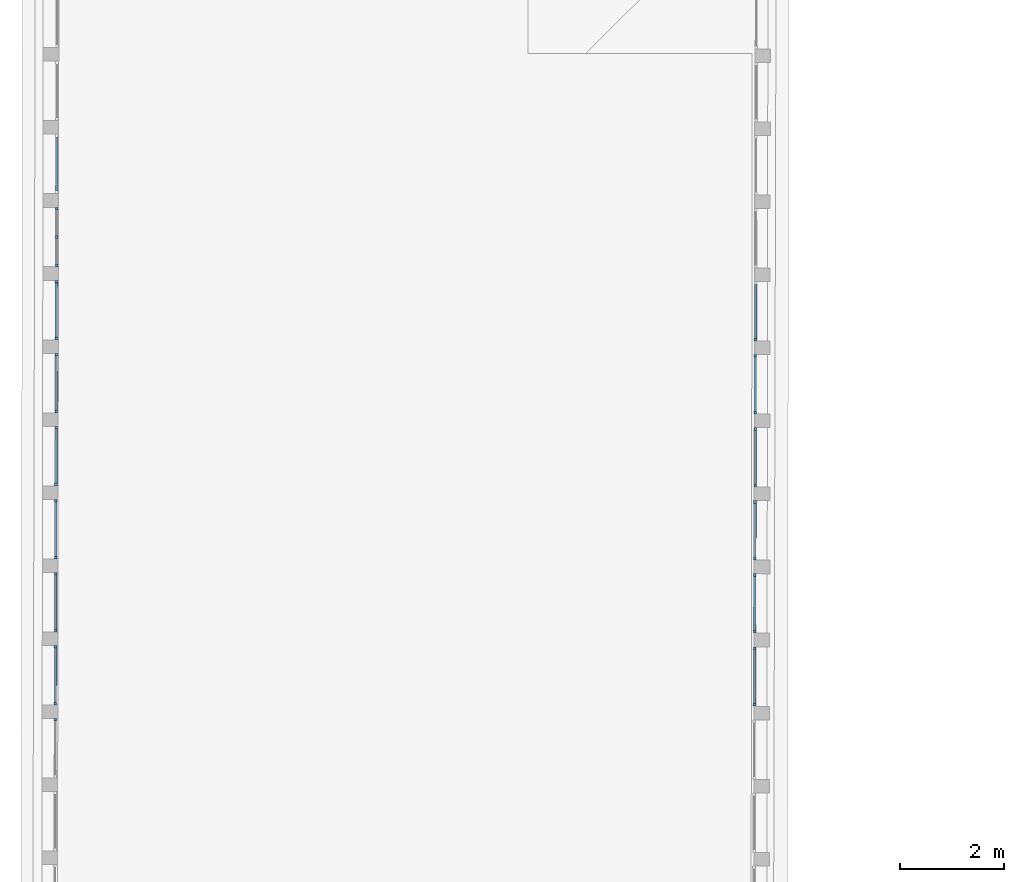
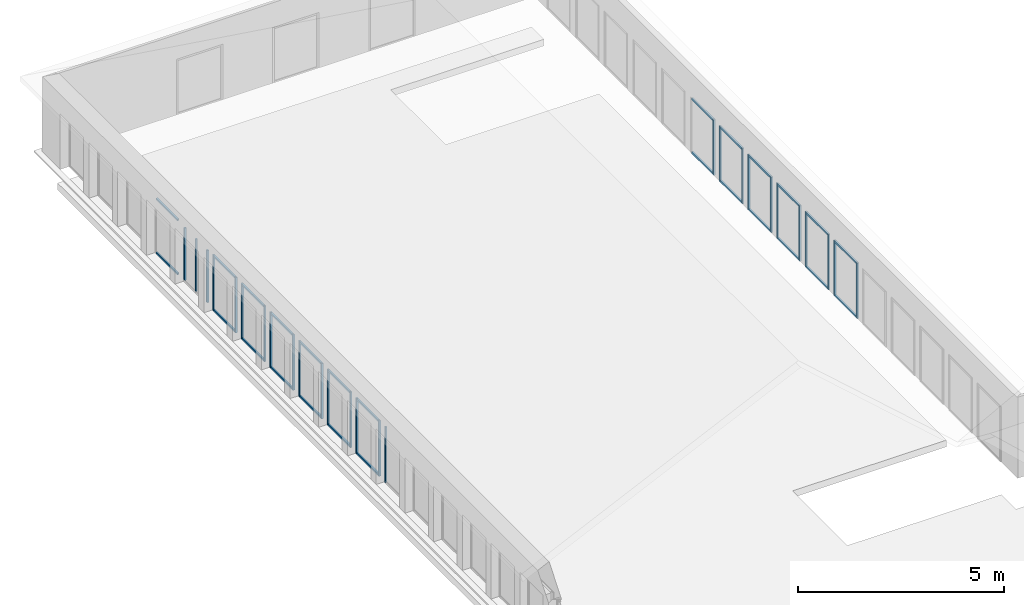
# One storey, part 7 of 26: 53 members, 15 elements without a shape of their own.
"""IFC2X3 building model written with IfcOpenShell, lengths in metres."""

from ifc_helpers import new_model, entity, si_unit, converted_unit, derived_unit, direction, frame, origin, origin_2d_with_axis, place, context, subcontext, project, spatial, rectangle, extrude, source, transform, mapped, material, type_object, type_shapes, element, aggregate, save


model = new_model("IFC2X3")

# Units and contexts
model_context = context("Model", 3, precision=1e-05, world=origin(), true_north=direction((6.123233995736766e-17, 1.0)))
body_context = subcontext(model_context, "Body", "Model", "MODEL_VIEW")
ifc_project = project(units=[si_unit("LENGTHUNIT", "METRE"), si_unit("AREAUNIT", "SQUARE_METRE"), converted_unit("PLANEANGLEUNIT", "DEGREE", entity("IfcPlaneAngleMeasure", 0.017453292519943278), si_unit("PLANEANGLEUNIT", "RADIAN"), dimensions=[0, 0, 0, 0, 0, 0, 0]), derived_unit("THERMALTRANSMITTANCEUNIT", [(si_unit("MASSUNIT", "GRAM", prefix="KILO"), 1), (si_unit("THERMODYNAMICTEMPERATUREUNIT", "KELVIN"), -1), (si_unit("TIMEUNIT", "SECOND"), -3)])], contexts=[model_context])

# Site, building, storey
site_placement = place(None, frame((1253.6752467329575, 2072.143113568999, 91.49999999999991), z_axis=(0.0, 0.0, 1.0), x_axis=(0.7237211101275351, 0.6900925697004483, 0.0)))
site = spatial("IfcSite", under=ifc_project, at=site_placement, Name="Surface", CompositionType="ELEMENT")
building_placement = place(site_placement, origin())
building = spatial("IfcBuilding", under=site, at=building_placement, CompositionType="ELEMENT")
storey_placement = place(building_placement, frame((0.0, 0.0, 7.0)))
storey = spatial("IfcBuildingStorey", under=building, at=storey_placement, Name="2-R+2", CompositionType="ELEMENT", Elevation=6.999999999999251)

# Curtain wall, member
curtain_wall_type = type_object("IfcCurtainWallType", Name="Mur-rideau:Menuiserie Ext 1F+1OB VERTIC", PredefinedType="NOTDEFINED")
curtain_wall_1_placement = place(storey_placement, frame((0.0, 0.0, -7.0)))
curtain_wall_1 = element("IfcCurtainWall", 1, at=curtain_wall_1_placement, inside=storey, type_object=curtain_wall_type, Name="Mur-rideau:Menuiserie Ext 1F+1OB VERTIC", ObjectType="Mur-rideau:Menuiserie Ext 1F+1OB VERTIC")
ifc_material_1 = material(Name="OMD_Aluminium Men Ext")
member_type_1 = type_object("IfcMemberType", Name="Meneau rectangulaire:50x50", PredefinedType="MULLION", material=ifc_material_1)
shared_shape_1 = source(origin(), body_context, "Body", "SweptSolid", [
    extrude(rectangle(XDim=0.05, YDim=0.049999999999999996, at=origin_2d_with_axis()), frame((-0.025, 0.0, -1.039999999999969), z_axis=(0.0, 0.0, 1.0), x_axis=(-1.0, 0.0, 0.0)), (0.0, 0.0, 1.0), 1.0399999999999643),
])
type_shapes(member_type_1, [shared_shape_1])
member_1_placement = place(curtain_wall_1_placement, frame((162.87160490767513, 23.81590034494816, 9.55), z_axis=(0.6911544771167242, 0.7227070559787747, 0.0), x_axis=(0.0, 0.0, 1.0)))
member_1 = element("IfcMember", 2, at=member_1_placement, type_object=member_type_1, material=ifc_material_1, Name="Meneau rectangulaire:50x50", ObjectType="Meneau rectangulaire:50x50", context=body_context, shape_type="MappedRepresentation", body=[
    mapped(shared_shape_1, transform((0.0, 0.0, 0.0), scale=1.0)),
])

curtain_wall_2_placement = place(storey_placement, frame((0.0, 0.0, -7.0)))
curtain_wall_2 = element("IfcCurtainWall", 3, at=curtain_wall_2_placement, inside=storey, type_object=curtain_wall_type, Name="Mur-rideau:Menuiserie Ext 1F+1OB VERTIC", ObjectType="Mur-rideau:Menuiserie Ext 1F+1OB VERTIC")
member_2_placement = place(curtain_wall_2_placement, frame((160.93407393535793, 21.794521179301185, 9.55), z_axis=(0.6911544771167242, 0.7227070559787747, 0.0), x_axis=(0.0, 0.0, 1.0)))
member_2 = element("IfcMember", 4, at=member_2_placement, type_object=member_type_1, material=ifc_material_1, Name="Meneau rectangulaire:50x50", ObjectType="Meneau rectangulaire:50x50", context=body_context, shape_type="MappedRepresentation", body=[
    mapped(shared_shape_1, transform((0.0, 0.0, 0.0), scale=1.0)),
])

curtain_wall_3_placement = place(storey_placement, frame((0.0, 0.0, -7.0)))
curtain_wall_3 = element("IfcCurtainWall", 5, at=curtain_wall_3_placement, inside=storey, type_object=curtain_wall_type, Name="Mur-rideau:Menuiserie Ext 1F+1OB VERTIC", ObjectType="Mur-rideau:Menuiserie Ext 1F+1OB VERTIC")
member_3_placement = place(curtain_wall_3_placement, frame((159.9653084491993, 20.78383159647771, 9.55), z_axis=(0.6911544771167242, 0.7227070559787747, 0.0), x_axis=(0.0, 0.0, 1.0)))
member_3 = element("IfcMember", 6, at=member_3_placement, type_object=member_type_1, material=ifc_material_1, Name="Meneau rectangulaire:50x50", ObjectType="Meneau rectangulaire:50x50", context=body_context, shape_type="MappedRepresentation", body=[
    mapped(shared_shape_1, transform((0.0, 0.0, 0.0), scale=1.0)),
])

curtain_wall_4_placement = place(storey_placement, frame((0.0, 0.0, -7.0)))
curtain_wall_4 = element("IfcCurtainWall", 7, at=curtain_wall_4_placement, inside=storey, type_object=curtain_wall_type, Name="Mur-rideau:Menuiserie Ext 1F+1OB VERTIC", ObjectType="Mur-rideau:Menuiserie Ext 1F+1OB VERTIC")
member_4_placement = place(curtain_wall_4_placement, frame((158.99654296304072, 19.773142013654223, 9.55), z_axis=(0.6911544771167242, 0.7227070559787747, 0.0), x_axis=(0.0, 0.0, 1.0)))
member_4 = element("IfcMember", 8, at=member_4_placement, type_object=member_type_1, material=ifc_material_1, Name="Meneau rectangulaire:50x50", ObjectType="Meneau rectangulaire:50x50", context=body_context, shape_type="MappedRepresentation", body=[
    mapped(shared_shape_1, transform((0.0, 0.0, 0.0), scale=1.0)),
])

curtain_wall_5_placement = place(storey_placement, frame((0.0, 0.0, -7.0)))
curtain_wall_5 = element("IfcCurtainWall", 9, at=curtain_wall_5_placement, inside=storey, type_object=curtain_wall_type, Name="Mur-rideau:Menuiserie Ext 1F+1OB VERTIC", ObjectType="Mur-rideau:Menuiserie Ext 1F+1OB VERTIC")
member_5_placement = place(curtain_wall_5_placement, frame((158.02777747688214, 18.762452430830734, 9.55), z_axis=(0.6911544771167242, 0.7227070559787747, 0.0), x_axis=(0.0, 0.0, 1.0)))
member_5 = element("IfcMember", 10, at=member_5_placement, type_object=member_type_1, material=ifc_material_1, Name="Meneau rectangulaire:50x50", ObjectType="Meneau rectangulaire:50x50", context=body_context, shape_type="MappedRepresentation", body=[
    mapped(shared_shape_1, transform((0.0, 0.0, 0.0), scale=1.0)),
])

curtain_wall_6_placement = place(storey_placement, frame((0.0, 0.0, -7.0)))
curtain_wall_6 = element("IfcCurtainWall", 11, at=curtain_wall_6_placement, inside=storey, type_object=curtain_wall_type, Name="Mur-rideau:Menuiserie Ext 1F+1OB VERTIC", ObjectType="Mur-rideau:Menuiserie Ext 1F+1OB VERTIC")
member_6_placement = place(curtain_wall_6_placement, frame((157.0590119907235, 17.751762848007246, 9.55), z_axis=(0.6911544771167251, 0.7227070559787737, 0.0), x_axis=(0.0, 0.0, 1.0)))
member_6 = element("IfcMember", 12, at=member_6_placement, type_object=member_type_1, material=ifc_material_1, Name="Meneau rectangulaire:50x50", ObjectType="Meneau rectangulaire:50x50", context=body_context, shape_type="MappedRepresentation", body=[
    mapped(shared_shape_1, transform((0.0, 0.0, 0.0), scale=1.0)),
])

curtain_wall_7_placement = place(storey_placement, frame((0.0, 0.0, -7.0)))
curtain_wall_7 = element("IfcCurtainWall", 13, at=curtain_wall_7_placement, inside=storey, type_object=curtain_wall_type, Name="Mur-rideau:Menuiserie Ext 1F+1OB VERTIC", ObjectType="Mur-rideau:Menuiserie Ext 1F+1OB VERTIC")
member_7_placement = place(curtain_wall_7_placement, frame((156.09024650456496, 16.741073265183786, 9.55), z_axis=(0.6911544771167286, 0.7227070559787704, 0.0), x_axis=(0.0, 0.0, 1.0)))
member_7 = element("IfcMember", 14, at=member_7_placement, type_object=member_type_1, material=ifc_material_1, Name="Meneau rectangulaire:50x50", ObjectType="Meneau rectangulaire:50x50", context=body_context, shape_type="MappedRepresentation", body=[
    mapped(shared_shape_1, transform((0.0, 0.0, 0.0), scale=1.0)),
])

curtain_wall_8_placement = place(storey_placement, frame((0.0, 0.0, -7.0)))
curtain_wall_8 = element("IfcCurtainWall", 15, at=curtain_wall_8_placement, inside=storey, type_object=curtain_wall_type, Name="Mur-rideau:Menuiserie Ext 1F+1OB VERTIC", ObjectType="Mur-rideau:Menuiserie Ext 1F+1OB VERTIC")
member_8_placement = place(curtain_wall_8_placement, frame((170.61578336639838, 12.528600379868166, 9.55), z_axis=(0.6909838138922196, 0.7228702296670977, 0.0), x_axis=(0.0, 0.0, 1.0)))
member_8 = element("IfcMember", 16, at=member_8_placement, type_object=member_type_1, material=ifc_material_1, Name="Meneau rectangulaire:50x50", ObjectType="Meneau rectangulaire:50x50", context=body_context, shape_type="MappedRepresentation", body=[
    mapped(shared_shape_1, transform((0.0, 0.0, 0.0), scale=1.0)),
])

curtain_wall_9_placement = place(storey_placement, frame((0.0, 0.0, -7.0)))
curtain_wall_9 = element("IfcCurtainWall", 17, at=curtain_wall_9_placement, inside=storey, type_object=curtain_wall_type, Name="Mur-rideau:Menuiserie Ext 1F+1OB VERTIC", ObjectType="Mur-rideau:Menuiserie Ext 1F+1OB VERTIC")
member_9_placement = place(curtain_wall_9_placement, frame((169.64701788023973, 11.517910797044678, 9.55), z_axis=(0.6909838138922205, 0.7228702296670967, 0.0), x_axis=(0.0, 0.0, 1.0)))
member_9 = element("IfcMember", 18, at=member_9_placement, type_object=member_type_1, material=ifc_material_1, Name="Meneau rectangulaire:50x50", ObjectType="Meneau rectangulaire:50x50", context=body_context, shape_type="MappedRepresentation", body=[
    mapped(shared_shape_1, transform((0.0, 0.0, 0.0), scale=1.0)),
])

curtain_wall_10_placement = place(storey_placement, frame((0.0, 0.0, -7.0)))
curtain_wall_10 = element("IfcCurtainWall", 19, at=curtain_wall_10_placement, inside=storey, type_object=curtain_wall_type, Name="Mur-rideau:Menuiserie Ext 1F+1OB VERTIC", ObjectType="Mur-rideau:Menuiserie Ext 1F+1OB VERTIC")
member_10_placement = place(curtain_wall_10_placement, frame((168.67825239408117, 10.507221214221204, 9.55), z_axis=(0.6909838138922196, 0.7228702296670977, 0.0), x_axis=(0.0, 0.0, 1.0)))
member_10 = element("IfcMember", 20, at=member_10_placement, type_object=member_type_1, material=ifc_material_1, Name="Meneau rectangulaire:50x50", ObjectType="Meneau rectangulaire:50x50", context=body_context, shape_type="MappedRepresentation", body=[
    mapped(shared_shape_1, transform((0.0, 0.0, 0.0), scale=1.0)),
])

curtain_wall_11_placement = place(storey_placement, frame((0.0, 0.0, -7.0)))
curtain_wall_11 = element("IfcCurtainWall", 21, at=curtain_wall_11_placement, inside=storey, type_object=curtain_wall_type, Name="Mur-rideau:Menuiserie Ext 1F+1OB VERTIC", ObjectType="Mur-rideau:Menuiserie Ext 1F+1OB VERTIC")
member_11_placement = place(curtain_wall_11_placement, frame((167.70948690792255, 9.496531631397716, 9.55), z_axis=(0.6909838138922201, 0.7228702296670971, 0.0), x_axis=(0.0, 0.0, 1.0)))
member_11 = element("IfcMember", 22, at=member_11_placement, type_object=member_type_1, material=ifc_material_1, Name="Meneau rectangulaire:50x50", ObjectType="Meneau rectangulaire:50x50", context=body_context, shape_type="MappedRepresentation", body=[
    mapped(shared_shape_1, transform((0.0, 0.0, 0.0), scale=1.0)),
])

curtain_wall_12_placement = place(storey_placement, frame((0.0, 0.0, -7.0)))
curtain_wall_12 = element("IfcCurtainWall", 23, at=curtain_wall_12_placement, inside=storey, type_object=curtain_wall_type, Name="Mur-rideau:Menuiserie Ext 1F+1OB VERTIC", ObjectType="Mur-rideau:Menuiserie Ext 1F+1OB VERTIC")
member_12_placement = place(curtain_wall_12_placement, frame((166.74072142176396, 8.485842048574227, 9.55), z_axis=(0.6909838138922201, 0.7228702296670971, 0.0), x_axis=(0.0, 0.0, 1.0)))
member_12 = element("IfcMember", 24, at=member_12_placement, type_object=member_type_1, material=ifc_material_1, Name="Meneau rectangulaire:50x50", ObjectType="Meneau rectangulaire:50x50", context=body_context, shape_type="MappedRepresentation", body=[
    mapped(shared_shape_1, transform((0.0, 0.0, 0.0), scale=1.0)),
])

curtain_wall_13_placement = place(storey_placement, frame((0.0, 0.0, -7.0)))
curtain_wall_13 = element("IfcCurtainWall", 25, at=curtain_wall_13_placement, inside=storey, type_object=curtain_wall_type, Name="Mur-rideau:Menuiserie Ext 1F+1OB VERTIC", ObjectType="Mur-rideau:Menuiserie Ext 1F+1OB VERTIC")
member_13_placement = place(curtain_wall_13_placement, frame((165.77195593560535, 7.475152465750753, 9.55), z_axis=(0.6909838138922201, 0.7228702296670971, 0.0), x_axis=(0.0, 0.0, 1.0)))
member_13 = element("IfcMember", 26, at=member_13_placement, type_object=member_type_1, material=ifc_material_1, Name="Meneau rectangulaire:50x50", ObjectType="Meneau rectangulaire:50x50", context=body_context, shape_type="MappedRepresentation", body=[
    mapped(shared_shape_1, transform((0.0, 0.0, 0.0), scale=1.0)),
])

# Member
member_type_2 = type_object("IfcMemberType", Name="Meneau rectangulaire:50x50", PredefinedType="MULLION", material=ifc_material_1)
shared_shape_2 = source(origin(), body_context, "Body", "SweptSolid", [
    extrude(rectangle(XDim=0.05, YDim=0.05, at=origin_2d_with_axis()), frame((-0.025, 0.0, -1.0399999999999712), z_axis=(0.0, 0.0, 1.0), x_axis=(-1.0, 0.0, 0.0)), (0.0, 0.0, 1.0), 1.0399999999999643),
])
type_shapes(member_type_2, [shared_shape_2])
member_14_placement = place(curtain_wall_1_placement, frame((162.15280425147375, 23.064285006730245, 7.9), z_axis=(-0.6911544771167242, -0.7227070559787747, 0.0), x_axis=(0.0, 0.0, -1.0)))
member_14 = element("IfcMember", 27, at=member_14_placement, type_object=member_type_2, material=ifc_material_1, Name="Meneau rectangulaire:50x50", ObjectType="Meneau rectangulaire:50x50", context=body_context, shape_type="MappedRepresentation", body=[
    mapped(shared_shape_2, transform((0.0, 0.0, 0.0), scale=1.0)),
])

aggregate(curtain_wall_1, [member_1, member_14])

member_15_placement = place(curtain_wall_2_placement, frame((160.21527327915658, 21.042905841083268, 7.9), z_axis=(-0.6911544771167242, -0.7227070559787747, 0.0), x_axis=(0.0, 0.0, -1.0)))
member_15 = element("IfcMember", 28, at=member_15_placement, type_object=member_type_2, material=ifc_material_1, Name="Meneau rectangulaire:50x50", ObjectType="Meneau rectangulaire:50x50", context=body_context, shape_type="MappedRepresentation", body=[
    mapped(shared_shape_2, transform((0.0, 0.0, 0.0), scale=1.0)),
])

member_16_placement = place(curtain_wall_3_placement, frame((159.24650779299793, 20.03221625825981, 7.9), z_axis=(-0.6911544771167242, -0.7227070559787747, 0.0), x_axis=(0.0, 0.0, -1.0)))
member_16 = element("IfcMember", 29, at=member_16_placement, type_object=member_type_2, material=ifc_material_1, Name="Meneau rectangulaire:50x50", ObjectType="Meneau rectangulaire:50x50", context=body_context, shape_type="MappedRepresentation", body=[
    mapped(shared_shape_2, transform((0.0, 0.0, 0.0), scale=1.0)),
])

member_17_placement = place(curtain_wall_4_placement, frame((158.27774230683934, 19.02152667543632, 7.9), z_axis=(-0.6911544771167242, -0.7227070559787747, 0.0), x_axis=(0.0, 0.0, -1.0)))
member_17 = element("IfcMember", 30, at=member_17_placement, type_object=member_type_2, material=ifc_material_1, Name="Meneau rectangulaire:50x50", ObjectType="Meneau rectangulaire:50x50", context=body_context, shape_type="MappedRepresentation", body=[
    mapped(shared_shape_2, transform((0.0, 0.0, 0.0), scale=1.0)),
])

member_18_placement = place(curtain_wall_5_placement, frame((157.30897682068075, 18.01083709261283, 7.9), z_axis=(-0.6911544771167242, -0.7227070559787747, 0.0), x_axis=(0.0, 0.0, -1.0)))
member_18 = element("IfcMember", 31, at=member_18_placement, type_object=member_type_2, material=ifc_material_1, Name="Meneau rectangulaire:50x50", ObjectType="Meneau rectangulaire:50x50", context=body_context, shape_type="MappedRepresentation", body=[
    mapped(shared_shape_2, transform((0.0, 0.0, 0.0), scale=1.0)),
])

member_19_placement = place(curtain_wall_6_placement, frame((156.3402113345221, 17.000147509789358, 7.9), z_axis=(-0.6911544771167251, -0.7227070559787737, 0.0), x_axis=(0.0, 0.0, -1.0)))
member_19 = element("IfcMember", 32, at=member_19_placement, type_object=member_type_2, material=ifc_material_1, Name="Meneau rectangulaire:50x50", ObjectType="Meneau rectangulaire:50x50", context=body_context, shape_type="MappedRepresentation", body=[
    mapped(shared_shape_2, transform((0.0, 0.0, 0.0), scale=1.0)),
])

member_20_placement = place(curtain_wall_7_placement, frame((155.37144584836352, 15.98945792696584, 7.9), z_axis=(-0.6911544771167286, -0.7227070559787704, 0.0), x_axis=(0.0, 0.0, -1.0)))
member_20 = element("IfcMember", 33, at=member_20_placement, type_object=member_type_2, material=ifc_material_1, Name="Meneau rectangulaire:50x50", ObjectType="Meneau rectangulaire:50x50", context=body_context, shape_type="MappedRepresentation", body=[
    mapped(shared_shape_2, transform((0.0, 0.0, 0.0), scale=1.0)),
])

member_21_placement = place(curtain_wall_8_placement, frame((169.89716019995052, 11.776815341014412, 7.9), z_axis=(-0.6909838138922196, -0.7228702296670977, 0.0), x_axis=(0.0, 0.0, -1.0)))
member_21 = element("IfcMember", 34, at=member_21_placement, type_object=member_type_2, material=ifc_material_1, Name="Meneau rectangulaire:50x50", ObjectType="Meneau rectangulaire:50x50", context=body_context, shape_type="MappedRepresentation", body=[
    mapped(shared_shape_2, transform((0.0, 0.0, 0.0), scale=1.0)),
])

member_22_placement = place(curtain_wall_9_placement, frame((168.92839471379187, 10.766125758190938, 7.9), z_axis=(-0.6909838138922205, -0.7228702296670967, 0.0), x_axis=(0.0, 0.0, -1.0)))
member_22 = element("IfcMember", 35, at=member_22_placement, type_object=member_type_2, material=ifc_material_1, Name="Meneau rectangulaire:50x50", ObjectType="Meneau rectangulaire:50x50", context=body_context, shape_type="MappedRepresentation", body=[
    mapped(shared_shape_2, transform((0.0, 0.0, 0.0), scale=1.0)),
])

member_23_placement = place(curtain_wall_10_placement, frame((167.95962922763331, 9.755436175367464, 7.9), z_axis=(-0.6909838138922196, -0.7228702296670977, 0.0), x_axis=(0.0, 0.0, -1.0)))
member_23 = element("IfcMember", 36, at=member_23_placement, type_object=member_type_2, material=ifc_material_1, Name="Meneau rectangulaire:50x50", ObjectType="Meneau rectangulaire:50x50", context=body_context, shape_type="MappedRepresentation", body=[
    mapped(shared_shape_2, transform((0.0, 0.0, 0.0), scale=1.0)),
])

member_24_placement = place(curtain_wall_11_placement, frame((166.9908637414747, 8.744746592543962, 7.9), z_axis=(-0.6909838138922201, -0.7228702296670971, 0.0), x_axis=(0.0, 0.0, -1.0)))
member_24 = element("IfcMember", 37, at=member_24_placement, type_object=member_type_2, material=ifc_material_1, Name="Meneau rectangulaire:50x50", ObjectType="Meneau rectangulaire:50x50", context=body_context, shape_type="MappedRepresentation", body=[
    mapped(shared_shape_2, transform((0.0, 0.0, 0.0), scale=1.0)),
])

member_25_placement = place(curtain_wall_12_placement, frame((166.02209825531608, 7.734057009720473, 7.9), z_axis=(-0.6909838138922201, -0.7228702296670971, 0.0), x_axis=(0.0, 0.0, -1.0)))
member_25 = element("IfcMember", 38, at=member_25_placement, type_object=member_type_2, material=ifc_material_1, Name="Meneau rectangulaire:50x50", ObjectType="Meneau rectangulaire:50x50", context=body_context, shape_type="MappedRepresentation", body=[
    mapped(shared_shape_2, transform((0.0, 0.0, 0.0), scale=1.0)),
])

member_26_placement = place(curtain_wall_13_placement, frame((165.05333276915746, 6.723367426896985, 7.9), z_axis=(-0.6909838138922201, -0.7228702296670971, 0.0), x_axis=(0.0, 0.0, -1.0)))
member_26 = element("IfcMember", 39, at=member_26_placement, type_object=member_type_2, material=ifc_material_1, Name="Meneau rectangulaire:50x50", ObjectType="Meneau rectangulaire:50x50", context=body_context, shape_type="MappedRepresentation", body=[
    mapped(shared_shape_2, transform((0.0, 0.0, 0.0), scale=1.0)),
])

member_type_3 = type_object("IfcMemberType", Name="Meneau rectangulaire:50x50", PredefinedType="MULLION", material=ifc_material_1)
shared_shape_3 = source(origin(), body_context, "Body", "SweptSolid", [
    extrude(rectangle(XDim=0.05, YDim=0.05, at=origin_2d_with_axis()), frame((-0.025, 0.0, -1.6499999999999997), z_axis=(0.0, 0.0, 1.0), x_axis=(-1.0, 0.0, 0.0)), (0.0, 0.0, 1.0), 1.6499999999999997),
])
type_shapes(member_type_3, [shared_shape_3])
member_27_placement = place(curtain_wall_2_placement, frame((160.96863165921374, 21.83065653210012, 7.9), z_axis=(0.0, 0.0, -1.0), x_axis=(0.6911544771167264, 0.7227070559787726, 0.0)))
member_27 = element("IfcMember", 40, at=member_27_placement, type_object=member_type_3, material=ifc_material_1, Name="Meneau rectangulaire:50x50", ObjectType="Meneau rectangulaire:50x50", context=body_context, shape_type="MappedRepresentation", body=[
    mapped(shared_shape_3, transform((0.0, 0.0, 0.0), scale=1.0)),
])

member_28_placement = place(curtain_wall_3_placement, frame((159.99986617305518, 20.819966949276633, 7.9), z_axis=(0.0, 0.0, -1.0), x_axis=(0.6911544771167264, 0.7227070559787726, 0.0)))
member_28 = element("IfcMember", 41, at=member_28_placement, type_object=member_type_3, material=ifc_material_1, Name="Meneau rectangulaire:50x50", ObjectType="Meneau rectangulaire:50x50", context=body_context, shape_type="MappedRepresentation", body=[
    mapped(shared_shape_3, transform((0.0, 0.0, 0.0), scale=1.0)),
])

member_29_placement = place(curtain_wall_4_placement, frame((159.0311006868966, 19.809277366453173, 7.9), z_axis=(0.0, 0.0, -1.0), x_axis=(0.6911544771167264, 0.7227070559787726, 0.0)))
member_29 = element("IfcMember", 42, at=member_29_placement, type_object=member_type_3, material=ifc_material_1, Name="Meneau rectangulaire:50x50", ObjectType="Meneau rectangulaire:50x50", context=body_context, shape_type="MappedRepresentation", body=[
    mapped(shared_shape_3, transform((0.0, 0.0, 0.0), scale=1.0)),
])

member_30_placement = place(curtain_wall_5_placement, frame((158.06233520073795, 18.79858778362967, 7.9), z_axis=(0.0, 0.0, -1.0), x_axis=(0.6911544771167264, 0.7227070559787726, 0.0)))
member_30 = element("IfcMember", 43, at=member_30_placement, type_object=member_type_3, material=ifc_material_1, Name="Meneau rectangulaire:50x50", ObjectType="Meneau rectangulaire:50x50", context=body_context, shape_type="MappedRepresentation", body=[
    mapped(shared_shape_3, transform((0.0, 0.0, 0.0), scale=1.0)),
])

member_31_placement = place(curtain_wall_6_placement, frame((157.09356971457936, 17.787898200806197, 7.9), z_axis=(0.0, 0.0, -1.0), x_axis=(0.6911544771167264, 0.7227070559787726, 0.0)))
member_31 = element("IfcMember", 44, at=member_31_placement, type_object=member_type_3, material=ifc_material_1, Name="Meneau rectangulaire:50x50", ObjectType="Meneau rectangulaire:50x50", context=body_context, shape_type="MappedRepresentation", body=[
    mapped(shared_shape_3, transform((0.0, 0.0, 0.0), scale=1.0)),
])

member_32_placement = place(curtain_wall_7_placement, frame((156.12480422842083, 16.777208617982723, 7.9), z_axis=(0.0, 0.0, -1.0), x_axis=(0.6911544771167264, 0.7227070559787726, 0.0)))
member_32 = element("IfcMember", 45, at=member_32_placement, type_object=member_type_3, material=ifc_material_1, Name="Meneau rectangulaire:50x50", ObjectType="Meneau rectangulaire:50x50", context=body_context, shape_type="MappedRepresentation", body=[
    mapped(shared_shape_3, transform((0.0, 0.0, 0.0), scale=1.0)),
])

# Curtain wall, member
curtain_wall_14_placement = place(storey_placement, frame((0.0, 0.0, -7.0)))
curtain_wall_14 = element("IfcCurtainWall", 46, at=curtain_wall_14_placement, inside=storey, type_object=curtain_wall_type, Name="Mur-rideau:Menuiserie Ext 1F+1OB VERTIC", ObjectType="Mur-rideau:Menuiserie Ext 1F+1OB VERTIC")
member_33_placement = place(curtain_wall_14_placement, frame((155.15603874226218, 15.766519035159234, 7.9), z_axis=(0.0, 0.0, -1.0), x_axis=(0.6911544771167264, 0.7227070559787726, 0.0)))
member_33 = element("IfcMember", 47, at=member_33_placement, type_object=member_type_3, material=ifc_material_1, Name="Meneau rectangulaire:50x50", ObjectType="Meneau rectangulaire:50x50", context=body_context, shape_type="MappedRepresentation", body=[
    mapped(shared_shape_3, transform((0.0, 0.0, 0.0), scale=1.0)),
])
aggregate(curtain_wall_14, [member_33])

# Member
member_34_placement = place(curtain_wall_9_placement, frame((169.68156707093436, 11.554054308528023, 7.9), z_axis=(0.0, 0.0, -1.0), x_axis=(0.6909838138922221, 0.7228702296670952, 0.0)))
member_34 = element("IfcMember", 48, at=member_34_placement, type_object=member_type_3, material=ifc_material_1, Name="Meneau rectangulaire:50x50", ObjectType="Meneau rectangulaire:50x50", context=body_context, shape_type="MappedRepresentation", body=[
    mapped(shared_shape_3, transform((0.0, 0.0, 0.0), scale=1.0)),
])

member_35_placement = place(curtain_wall_10_placement, frame((168.71280158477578, 10.543364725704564, 7.9), z_axis=(0.0, 0.0, -1.0), x_axis=(0.6909838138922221, 0.7228702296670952, 0.0)))
member_35 = element("IfcMember", 49, at=member_35_placement, type_object=member_type_3, material=ifc_material_1, Name="Meneau rectangulaire:50x50", ObjectType="Meneau rectangulaire:50x50", context=body_context, shape_type="MappedRepresentation", body=[
    mapped(shared_shape_3, transform((0.0, 0.0, 0.0), scale=1.0)),
])

member_36_placement = place(curtain_wall_11_placement, frame((167.7440360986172, 9.532675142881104, 7.9), z_axis=(0.0, 0.0, -1.0), x_axis=(0.6909838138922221, 0.7228702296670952, 0.0)))
member_36 = element("IfcMember", 50, at=member_36_placement, type_object=member_type_3, material=ifc_material_1, Name="Meneau rectangulaire:50x50", ObjectType="Meneau rectangulaire:50x50", context=body_context, shape_type="MappedRepresentation", body=[
    mapped(shared_shape_3, transform((0.0, 0.0, 0.0), scale=1.0)),
])

member_37_placement = place(curtain_wall_12_placement, frame((166.77527061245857, 8.521985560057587, 7.9), z_axis=(0.0, 0.0, -1.0), x_axis=(0.6909838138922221, 0.7228702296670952, 0.0)))
member_37 = element("IfcMember", 51, at=member_37_placement, type_object=member_type_3, material=ifc_material_1, Name="Meneau rectangulaire:50x50", ObjectType="Meneau rectangulaire:50x50", context=body_context, shape_type="MappedRepresentation", body=[
    mapped(shared_shape_3, transform((0.0, 0.0, 0.0), scale=1.0)),
])

member_38_placement = place(curtain_wall_13_placement, frame((165.80650512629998, 7.511295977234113, 7.9), z_axis=(0.0, 0.0, -1.0), x_axis=(0.6909838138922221, 0.7228702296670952, 0.0)))
member_38 = element("IfcMember", 52, at=member_38_placement, type_object=member_type_3, material=ifc_material_1, Name="Meneau rectangulaire:50x50", ObjectType="Meneau rectangulaire:50x50", context=body_context, shape_type="MappedRepresentation", body=[
    mapped(shared_shape_3, transform((0.0, 0.0, 0.0), scale=1.0)),
])

member_type_4 = type_object("IfcMemberType", Name="Meneau rectangulaire:50x50", PredefinedType="MULLION", material=ifc_material_1)
shared_shape_4 = source(origin(), body_context, "Body", "SweptSolid", [
    extrude(rectangle(XDim=0.05, YDim=0.05000000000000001, at=origin_2d_with_axis()), frame((-0.025, 0.0, -1.6499999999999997), z_axis=(0.0, 0.0, 1.0), x_axis=(-1.0, 0.0, 0.0)), (0.0, 0.0, 1.0), 1.6499999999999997),
])
type_shapes(member_type_4, [shared_shape_4])
member_39_placement = place(curtain_wall_2_placement, frame((160.1807155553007, 21.006770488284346, 9.55), z_axis=(0.0, 0.0, 1.0), x_axis=(-0.6911544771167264, -0.7227070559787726, 0.0)))
member_39 = element("IfcMember", 53, at=member_39_placement, type_object=member_type_4, material=ifc_material_1, Name="Meneau rectangulaire:50x50", ObjectType="Meneau rectangulaire:50x50", context=body_context, shape_type="MappedRepresentation", body=[
    mapped(shared_shape_4, transform((0.0, 0.0, 0.0), scale=1.0)),
])

aggregate(curtain_wall_2, [member_2, member_15, member_27, member_39])

member_40_placement = place(curtain_wall_3_placement, frame((159.21195006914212, 19.996080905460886, 9.55), z_axis=(0.0, 0.0, 1.0), x_axis=(-0.6911544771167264, -0.7227070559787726, 0.0)))
member_40 = element("IfcMember", 54, at=member_40_placement, type_object=member_type_4, material=ifc_material_1, Name="Meneau rectangulaire:50x50", ObjectType="Meneau rectangulaire:50x50", context=body_context, shape_type="MappedRepresentation", body=[
    mapped(shared_shape_4, transform((0.0, 0.0, 0.0), scale=1.0)),
])

aggregate(curtain_wall_3, [member_3, member_16, member_28, member_40])

member_41_placement = place(curtain_wall_4_placement, frame((158.2431845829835, 18.985391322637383, 9.55), z_axis=(0.0, 0.0, 1.0), x_axis=(-0.6911544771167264, -0.7227070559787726, 0.0)))
member_41 = element("IfcMember", 55, at=member_41_placement, type_object=member_type_4, material=ifc_material_1, Name="Meneau rectangulaire:50x50", ObjectType="Meneau rectangulaire:50x50", context=body_context, shape_type="MappedRepresentation", body=[
    mapped(shared_shape_4, transform((0.0, 0.0, 0.0), scale=1.0)),
])

aggregate(curtain_wall_4, [member_4, member_17, member_29, member_41])

member_42_placement = place(curtain_wall_5_placement, frame((157.27441909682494, 17.97470173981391, 9.55), z_axis=(0.0, 0.0, 1.0), x_axis=(-0.6911544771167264, -0.7227070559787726, 0.0)))
member_42 = element("IfcMember", 56, at=member_42_placement, type_object=member_type_4, material=ifc_material_1, Name="Meneau rectangulaire:50x50", ObjectType="Meneau rectangulaire:50x50", context=body_context, shape_type="MappedRepresentation", body=[
    mapped(shared_shape_4, transform((0.0, 0.0, 0.0), scale=1.0)),
])

aggregate(curtain_wall_5, [member_5, member_18, member_30, member_42])

member_43_placement = place(curtain_wall_6_placement, frame((156.30565361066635, 16.964012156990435, 9.55), z_axis=(0.0, 0.0, 1.0), x_axis=(-0.6911544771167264, -0.7227070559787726, 0.0)))
member_43 = element("IfcMember", 57, at=member_43_placement, type_object=member_type_4, material=ifc_material_1, Name="Meneau rectangulaire:50x50", ObjectType="Meneau rectangulaire:50x50", context=body_context, shape_type="MappedRepresentation", body=[
    mapped(shared_shape_4, transform((0.0, 0.0, 0.0), scale=1.0)),
])

aggregate(curtain_wall_6, [member_6, member_19, member_31, member_43])

member_44_placement = place(curtain_wall_7_placement, frame((155.3368881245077, 15.953322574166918, 9.55), z_axis=(0.0, 0.0, 1.0), x_axis=(-0.6911544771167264, -0.7227070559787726, 0.0)))
member_44 = element("IfcMember", 58, at=member_44_placement, type_object=member_type_4, material=ifc_material_1, Name="Meneau rectangulaire:50x50", ObjectType="Meneau rectangulaire:50x50", context=body_context, shape_type="MappedRepresentation", body=[
    mapped(shared_shape_4, transform((0.0, 0.0, 0.0), scale=1.0)),
])

aggregate(curtain_wall_7, [member_7, member_20, member_32, member_44])

member_45_placement = place(curtain_wall_8_placement, frame((169.86261100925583, 11.740671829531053, 9.55), z_axis=(0.0, 0.0, 1.0), x_axis=(-0.6909838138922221, -0.7228702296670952, 0.0)))
member_45 = element("IfcMember", 59, at=member_45_placement, type_object=member_type_4, material=ifc_material_1, Name="Meneau rectangulaire:50x50", ObjectType="Meneau rectangulaire:50x50", context=body_context, shape_type="MappedRepresentation", body=[
    mapped(shared_shape_4, transform((0.0, 0.0, 0.0), scale=1.0)),
])

aggregate(curtain_wall_8, [member_8, member_21, member_45])

member_46_placement = place(curtain_wall_9_placement, frame((168.8938455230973, 10.729982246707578, 9.55), z_axis=(0.0, 0.0, 1.0), x_axis=(-0.6909838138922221, -0.7228702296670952, 0.0)))
member_46 = element("IfcMember", 60, at=member_46_placement, type_object=member_type_4, material=ifc_material_1, Name="Meneau rectangulaire:50x50", ObjectType="Meneau rectangulaire:50x50", context=body_context, shape_type="MappedRepresentation", body=[
    mapped(shared_shape_4, transform((0.0, 0.0, 0.0), scale=1.0)),
])

aggregate(curtain_wall_9, [member_9, member_22, member_34, member_46])

member_47_placement = place(curtain_wall_10_placement, frame((167.92508003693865, 9.71929266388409, 9.55), z_axis=(0.0, 0.0, 1.0), x_axis=(-0.6909838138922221, -0.7228702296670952, 0.0)))
member_47 = element("IfcMember", 61, at=member_47_placement, type_object=member_type_4, material=ifc_material_1, Name="Meneau rectangulaire:50x50", ObjectType="Meneau rectangulaire:50x50", context=body_context, shape_type="MappedRepresentation", body=[
    mapped(shared_shape_4, transform((0.0, 0.0, 0.0), scale=1.0)),
])

aggregate(curtain_wall_10, [member_10, member_23, member_35, member_47])

member_48_placement = place(curtain_wall_11_placement, frame((166.95631455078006, 8.708603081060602, 9.55), z_axis=(0.0, 0.0, 1.0), x_axis=(-0.6909838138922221, -0.7228702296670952, 0.0)))
member_48 = element("IfcMember", 62, at=member_48_placement, type_object=member_type_4, material=ifc_material_1, Name="Meneau rectangulaire:50x50", ObjectType="Meneau rectangulaire:50x50", context=body_context, shape_type="MappedRepresentation", body=[
    mapped(shared_shape_4, transform((0.0, 0.0, 0.0), scale=1.0)),
])

aggregate(curtain_wall_11, [member_11, member_24, member_36, member_48])

member_49_placement = place(curtain_wall_12_placement, frame((165.98754906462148, 7.697913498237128, 9.55), z_axis=(0.0, 0.0, 1.0), x_axis=(-0.6909838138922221, -0.7228702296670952, 0.0)))
member_49 = element("IfcMember", 63, at=member_49_placement, type_object=member_type_4, material=ifc_material_1, Name="Meneau rectangulaire:50x50", ObjectType="Meneau rectangulaire:50x50", context=body_context, shape_type="MappedRepresentation", body=[
    mapped(shared_shape_4, transform((0.0, 0.0, 0.0), scale=1.0)),
])

aggregate(curtain_wall_12, [member_12, member_25, member_37, member_49])

member_50_placement = place(curtain_wall_13_placement, frame((165.0187835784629, 6.687223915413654, 9.55), z_axis=(0.0, 0.0, 1.0), x_axis=(-0.6909838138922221, -0.7228702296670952, 0.0)))
member_50 = element("IfcMember", 64, at=member_50_placement, type_object=member_type_4, material=ifc_material_1, Name="Meneau rectangulaire:50x50", ObjectType="Meneau rectangulaire:50x50", context=body_context, shape_type="MappedRepresentation", body=[
    mapped(shared_shape_4, transform((0.0, 0.0, 0.0), scale=1.0)),
])

aggregate(curtain_wall_13, [member_13, member_26, member_38, member_50])

# Curtain wall, members
curtain_wall_15_placement = place(storey_placement, frame((0.0, 0.0, -7.0)))
curtain_wall_15 = element("IfcCurtainWall", 65, at=curtain_wall_15_placement, inside=storey, type_object=curtain_wall_type, Name="Mur-rideau:Menuiserie Ext 1F+1OB VERTIC", ObjectType="Mur-rideau:Menuiserie Ext 1F+1OB VERTIC")
member_type_5 = type_object("IfcMemberType", Name="Meneau rectangulaire:50x50", PredefinedType="MULLION", material=ifc_material_1)
shared_shape_5 = source(origin(), body_context, "Body", "SweptSolid", [
    extrude(rectangle(XDim=0.05, YDim=0.049999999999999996, at=origin_2d_with_axis()), frame((-0.025, 0.0, -1.549999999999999), z_axis=(0.0, 0.0, 1.0), x_axis=(-1.0, 0.0, 0.0)), (0.0, 0.0, 1.0), 1.5499999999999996),
])
type_shapes(member_type_5, [shared_shape_5])
member_51_placement = place(curtain_wall_15_placement, frame((161.93739714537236, 22.84134611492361, 7.950000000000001), z_axis=(0.0, 0.0, -1.0), x_axis=(0.6911544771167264, 0.7227070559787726, 0.0)))
member_51 = element("IfcMember", 66, at=member_51_placement, type_object=member_type_5, material=ifc_material_1, Name="Meneau rectangulaire:50x50", ObjectType="Meneau rectangulaire:50x50", context=body_context, shape_type="MappedRepresentation", body=[
    mapped(shared_shape_5, transform((0.0, 0.0, 0.0), scale=1.0)),
])
member_type_6 = type_object("IfcMemberType", Name="Meneau rectangulaire:50x50", PredefinedType="MULLION", material=ifc_material_1)
shared_shape_6 = source(origin(), body_context, "Body", "SweptSolid", [
    extrude(rectangle(XDim=0.05, YDim=0.05000000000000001, at=origin_2d_with_axis()), frame((-0.025, 0.0, -1.549999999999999), z_axis=(0.0, 0.0, 1.0), x_axis=(-1.0, 0.0, 0.0)), (0.0, 0.0, 1.0), 1.5499999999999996),
])
type_shapes(member_type_6, [shared_shape_6])
member_52_placement = place(curtain_wall_15_placement, frame((161.14948104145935, 22.01746007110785, 9.5), z_axis=(0.0, 0.0, 1.0), x_axis=(-0.6911544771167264, -0.7227070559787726, 0.0)))
member_52 = element("IfcMember", 67, at=member_52_placement, type_object=member_type_6, material=ifc_material_1, Name="Meneau rectangulaire:50x50", ObjectType="Meneau rectangulaire:50x50", context=body_context, shape_type="MappedRepresentation", body=[
    mapped(shared_shape_6, transform((0.0, 0.0, 0.0), scale=1.0)),
])
ifc_material_2 = material(Name="OMD_Bois Men Int")
member_type_7 = type_object("IfcMemberType", Name="Meneau rectangulaire:50x50 Int", PredefinedType="MULLION", material=ifc_material_2)
shared_shape_7 = source(origin(), body_context, "Body", "SweptSolid", [
    extrude(rectangle(XDim=0.05, YDim=0.05, at=origin_2d_with_axis()), frame((0.0, 0.0, -1.549999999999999), z_axis=(0.0, 0.0, 1.0), x_axis=(-1.0, 0.0, 0.0)), (0.0, 0.0, 1.0), 1.5499999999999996),
])
type_shapes(member_type_7, [shared_shape_7])
member_53_placement = place(curtain_wall_15_placement, frame((161.54343909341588, 22.429403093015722, 7.950000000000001), z_axis=(0.0, 0.0, -1.0), x_axis=(0.6911544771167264, 0.7227070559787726, 0.0)))
member_53 = element("IfcMember", 68, at=member_53_placement, type_object=member_type_7, material=ifc_material_2, Name="Meneau rectangulaire:50x50 Int", ObjectType="Meneau rectangulaire:50x50 Int", context=body_context, shape_type="MappedRepresentation", body=[
    mapped(shared_shape_7, transform((0.0, 0.0, 0.0), scale=1.0)),
])
aggregate(curtain_wall_15, [member_51, member_52, member_53])

save(model, "model.ifc")
